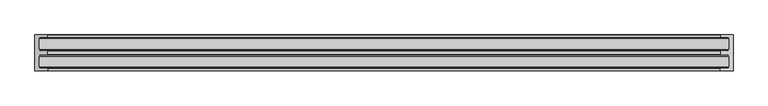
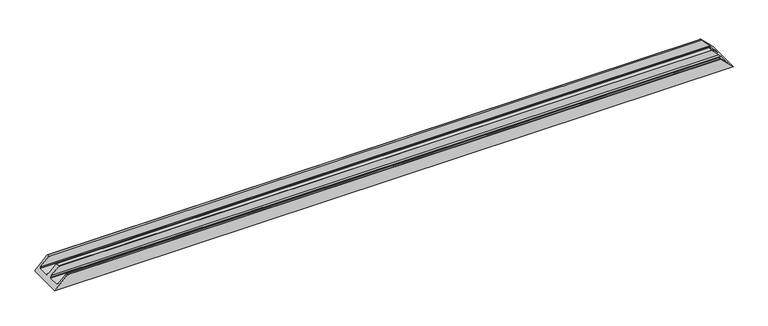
"""IFC4 building model written with IfcOpenShell, lengths in millimetres: proxy geometry, Weiku - Montante - Caixilho duplo 02.3.02.409 : Weiku - Montante - Caixilho duplo 02.3.02.409."""

import ifcopenshell
import ifcopenshell.guid

model = None  # the IFC model being written
_history = None  # IfcOwnerHistory: only IFC2X3 demands one
_inside = {}  # id of a spatial element -> (the spatial element, [elements in it])
_under = {}  # id of a project, library or spatial element -> (it, [spatial elements below it])
_declared = {}  # id of a project -> (the project, [libraries it declares])
_typed = {}  # id of a type object -> (the type object, [elements of that type])
_made_of = {}  # id of a material, layer set ... -> (it, [elements and type objects made of it])


def new_model(schema):
    """Start an empty IFC model of exactly this schema.

    Asked for "IFC4X3", IfcOpenShell would pick the latest addendum, in which some entities
    have other attributes; the version numbers below select the first issue.
    IFC2X3 requires an IfcOwnerHistory on every rooted entity: one is made here for all.
    """
    global model, _history
    if schema == "IFC4X3":
        model = ifcopenshell.file(schema_version=(4, 3, 0, 0))
    else:
        model = ifcopenshell.file(schema=schema)
    _inside.clear()
    _under.clear()
    _declared.clear()
    _typed.clear()
    _made_of.clear()
    _history = None
    if model.schema == "IFC2X3":
        org = make("IfcOrganization", Name="unknown")
        user = make(
            "IfcPersonAndOrganization",
            ThePerson=make("IfcPerson", FamilyName="unknown"),
            TheOrganization=org,
        )
        app = make(
            "IfcApplication",
            ApplicationDeveloper=org,
            Version="unknown",
            ApplicationFullName="unknown",
            ApplicationIdentifier="unknown",
        )
        _history = make(
            "IfcOwnerHistory",
            OwningUser=user,
            OwningApplication=app,
            ChangeAction="ADDED",
            CreationDate=0,
        )
    return model


def make(cls, **values):
    """One entity of the class cls with the attributes given. An attribute that is None is left unset."""
    return model.create_entity(
        cls, **{name: value for name, value in values.items() if value is not None}
    )


def rooted(cls, **values):
    """An entity with a GlobalId (a new one), such as an element, a storey or a relation."""
    return make(cls, GlobalId=ifcopenshell.guid.new(), OwnerHistory=_history, **values)


def si_unit(unit_type, name, prefix=None):
    """IfcSIUnit, for example si_unit("LENGTHUNIT", "METRE", prefix="MILLI")."""
    return make("IfcSIUnit", UnitType=unit_type, Prefix=prefix, Name=name)


def assignment(units):
    """IfcUnitAssignment: the units of a project."""
    return None if units is None else make("IfcUnitAssignment", Units=units)


def point(xyz):
    """IfcCartesianPoint."""
    return None if xyz is None else make("IfcCartesianPoint", Coordinates=xyz)


def direction(xyz):
    """IfcDirection."""
    return None if xyz is None else make("IfcDirection", DirectionRatios=xyz)


def frame(location, z_axis=None, x_axis=None):
    """IfcAxis2Placement3D, a coordinate frame: its origin and axes. An axis left out is left unset."""
    return make(
        "IfcAxis2Placement3D",
        Location=point(location),
        Axis=direction(z_axis),
        RefDirection=direction(x_axis),
    )


def origin():
    """The frame at (0, 0, 0) with its axes left unset."""
    return frame((0.0, 0.0, 0.0))


def place(relative_to, where):
    """IfcLocalPlacement: puts the frame where relative to a parent placement (None: the world)."""
    return make(
        "IfcLocalPlacement", PlacementRelTo=relative_to, RelativePlacement=where
    )


def context(
    kind, dimensions, precision=None, world=None, true_north=None, identifier=None
):
    """IfcGeometricRepresentationContext, for example the 3D "Model" context."""
    return make(
        "IfcGeometricRepresentationContext",
        ContextIdentifier=identifier,
        ContextType=kind,
        CoordinateSpaceDimension=dimensions,
        Precision=precision,
        WorldCoordinateSystem=world,
        TrueNorth=true_north,
    )


def project(units=None, contexts=None):
    """IfcProject with its units and contexts."""
    return rooted(
        "IfcProject",
        Name="project",
        RepresentationContexts=contexts,
        UnitsInContext=assignment(units),
    )


def spatial(cls, under=None, at=None, **own):
    """A site, building, storey or space (cls), placed at a placement, below another one or the project."""
    s = rooted(cls, ObjectPlacement=at, **own)
    if under is not None:
        _under.setdefault(under.id(), (under, []))[1].append(s)
    return s


def ellipse_curve(where, semi_axis1, semi_axis2):
    """IfcEllipse in the frame where."""
    return make(
        "IfcEllipse", Position=where, SemiAxis1=semi_axis1, SemiAxis2=semi_axis2
    )


def shape(context_of_items, identifier, shape_type, items):
    """IfcShapeRepresentation: the items that make up one representation, for example the "Body"."""
    return make(
        "IfcShapeRepresentation",
        ContextOfItems=context_of_items,
        RepresentationIdentifier=identifier,
        RepresentationType=shape_type,
        Items=items,
    )


def source(mapping_origin, context_of_items, identifier, shape_type, items):
    """IfcRepresentationMap: a shape defined once, which mapped items show again and again."""
    return make(
        "IfcRepresentationMap",
        MappingOrigin=mapping_origin,
        MappedRepresentation=shape(context_of_items, identifier, shape_type, items),
    )


def transform(
    local_origin,
    x_axis=None,
    y_axis=None,
    z_axis=None,
    scale=None,
    scale2=None,
    scale3=None,
    uniform=True,
):
    """IfcCartesianTransformationOperator3D, or its non-uniform kind. x_axis, y_axis, z_axis: its Axis1, 2, 3."""
    if uniform:
        return make(
            "IfcCartesianTransformationOperator3D",
            Axis1=direction(x_axis),
            Axis2=direction(y_axis),
            LocalOrigin=point(local_origin),
            Scale=scale,
            Axis3=direction(z_axis),
        )
    return make(
        "IfcCartesianTransformationOperator3DnonUniform",
        Axis1=direction(x_axis),
        Axis2=direction(y_axis),
        LocalOrigin=point(local_origin),
        Scale=scale,
        Axis3=direction(z_axis),
        Scale2=scale2,
        Scale3=scale3,
    )


def mapped(mapping_source, mapping_target):
    """IfcMappedItem: shows the shape of a source again, moved by a transform."""
    return make(
        "IfcMappedItem", MappingSource=mapping_source, MappingTarget=mapping_target
    )


def made_of(thing, what):
    """Note that an element or type object is made of a material, layer set ...; save() writes the relation."""
    if what is not None:
        _made_of.setdefault(what.id(), (what, []))[1].append(thing)
    return thing


def element(
    cls,
    number,
    at=None,
    inside=None,
    cuts=None,
    type_object=None,
    material=None,
    context=None,
    identifier="Body",
    shape_type=None,
    held_by="IfcProductDefinitionShape",
    body=None,
    shapes=None,
    **own,
):
    """One element of the class cls, such as IfcWall. Its Tag is "e" and its number.

    at: its placement. inside: the storey or other place that contains it. cuts: it is an
    opening in that element (IfcRelVoidsElement). A single representation is given by context,
    identifier, shape_type and body (its items); several are given by shapes. held_by: the class
    of the entity that holds the representations. save() writes the other relations.
    """
    e = rooted(cls, Tag="e%d" % number, ObjectPlacement=at, **own)
    if body is not None:
        shapes = [shape(context, identifier, shape_type, body)]
    if shapes is not None:
        e.Representation = make(held_by, Representations=shapes)
    if inside is not None:
        _inside.setdefault(inside.id(), (inside, []))[1].append(e)
    if cuts is not None:
        rooted(
            "IfcRelVoidsElement", RelatingBuildingElement=cuts, RelatedOpeningElement=e
        )
    if type_object is not None:
        _typed.setdefault(type_object.id(), (type_object, []))[1].append(e)
    return made_of(e, material)


def aggregate(whole, parts):
    """IfcRelAggregates: a whole, such as a stair, and the parts it consists of."""
    return rooted("IfcRelAggregates", RelatingObject=whole, RelatedObjects=parts)


def save(model, path):
    """Write the relations noted so far, then the file.

    IfcRelAggregates (storeys below a building ...), IfcRelContainedInSpatialStructure (elements
    in a storey), IfcRelDefinesByType, IfcRelAssociatesMaterial and IfcRelDeclares: one each for
    every whole, place, type object, material and project.
    """
    for whole, parts in _under.values():
        aggregate(whole, parts)
    for where, things in _inside.values():
        rooted(
            "IfcRelContainedInSpatialStructure",
            RelatedElements=things,
            RelatingStructure=where,
        )
    for kind, things in _typed.values():
        rooted("IfcRelDefinesByType", RelatedObjects=things, RelatingType=kind)
    for what, things in _made_of.values():
        rooted("IfcRelAssociatesMaterial", RelatedObjects=things, RelatingMaterial=what)
    for by, libraries in _declared.values():
        rooted("IfcRelDeclares", RelatingContext=by, RelatedDefinitions=libraries)
    model.write(path)


def plane_surface(at):
    """IfcPlane: the flat surface through the origin of the frame at, square to its z axis."""
    return make("IfcPlane", Position=at)


def cylinder_surface(at, radius):
    """IfcCylindricalSurface: all points at the distance radius from the z axis of the frame at."""
    return make("IfcCylindricalSurface", Position=at, Radius=radius)


def advanced_brep(points, edges, surfaces, faces):
    """IfcAdvancedBrep: a solid bounded by faces that lie on surfaces and meet in shared edges.

    An edge is (start, end): straight between two places in points (the first is 0);
    or (start, end, curve); or (start, end, curve, False) where it runs against its curve.
    A face is (place in surfaces, loops), or (place, loops, False) where it looks against
    its surface's normal. A loop lists edges by number (the first is 1), with a minus sign
    where the edge is run from its end to its start. The first loop is the outer one.
    """
    corners = [point(p) for p in points]
    vertices = [make("IfcVertexPoint", VertexGeometry=c) for c in corners]
    made = []
    for start, end, *more in edges:
        made.append(
            make(
                "IfcEdgeCurve",
                EdgeStart=vertices[start],
                EdgeEnd=vertices[end],
                EdgeGeometry=more[0] if more else make("IfcPolyline", Points=[corners[start], corners[end]]),
                SameSense=more[1] if len(more) > 1 else True,
            )
        )
    hull = []
    for where, loops, *sense in faces:
        bounds = []
        for j, loop in enumerate(loops):
            ring = [make("IfcOrientedEdge", EdgeElement=made[abs(k) - 1], Orientation=k > 0) for k in loop]
            bounds.append(
                make(
                    "IfcFaceOuterBound" if j == 0 else "IfcFaceBound",
                    Bound=make("IfcEdgeLoop", EdgeList=ring),
                    Orientation=True,
                )
            )
        hull.append(make("IfcAdvancedFace", Bounds=bounds, FaceSurface=surfaces[where], SameSense=sense[0] if sense else True))
    return make("IfcAdvancedBrep", Outer=make("IfcClosedShell", CfsFaces=hull))


def generic_models_33c4479b(model_context):
    return source(origin(), model_context, "Body", "AdvancedBrep", [
        advanced_brep(
        [(-1508.0, -9.8, 18.2), (1508.0, -9.8, 18.2), (1470.3, -9.8, 55.9), (-1470.3, -9.8, 55.9), (-1510.5000079, -63.85, 15.6999921), (1510.5000079, -63.85, 15.6999921), (1510.5000079, -15.05, 15.6999921), (-1510.5000079, -15.05, 15.6999921), (-1470.3000055, -69.1, 55.8999945), (1470.3000055, -69.1, 55.8999945), (1502.3700642, -69.1, 23.8299358), (-1502.3700642, -69.1, 23.8299358), (-1469.8000055, -86.65, 56.3999945), (1469.8000055, -86.65, 56.3999945), (1469.8000055, -69.6, 56.3999945), (-1469.8000055, -69.6, 56.3999945), (-1502.4236827, -87.15, 23.7763173), (1502.4236827, -87.15, 23.7763173), (1470.3000055, -87.15, 55.8999945), (-1470.3000055, -87.15, 55.8999945), (-1526.2, -156.2000166, 0.0), (-1526.2, 0.0, 0.0), (1526.2, 0.0, 0.0), (1526.2, -156.2000166, 0.0), (-1470.3, 0.0, 55.9), (1470.3, 0.0, 55.9), (-1469.8, -9.3, 56.4), (1469.8, -9.3, 56.4), (1469.8, -0.5, 56.4), (-1469.8, -0.5, 56.4), (-1470.3, -156.2000166, 55.9), (-1469.8, -155.7000166, 56.4), (-1469.8, -146.9000166, 56.4), (-1470.3, -146.4000166, 55.9), (-1508.0, -146.4000166, 18.2), (-1508.0, -141.1500166, 18.2), (-1510.5000079, -141.1500166, 15.6999921), (-1510.5000079, -92.3500166, 15.6999921), (-1508.0000178, -92.3500166, 18.1999822), (-1508.0, -63.85, 18.2), (-1508.0, -15.05, 18.2), (1508.0, -15.05, 18.2), (1508.0, -63.85, 18.2), (1508.0000178, -92.3500166, 18.1999822), (1510.5000079, -92.3500166, 15.6999921), (1510.5000079, -141.1500166, 15.6999921), (1508.0, -141.1500166, 18.2), (1508.0, -146.4000166, 18.2), (1470.3, -146.4000166, 55.9), (1469.8, -146.9000166, 56.4), (1469.8, -155.7000166, 56.4), (1470.3, -156.2000166, 55.9)],
        [
            (0, 1),
            (1, 2),
            (2, 3),
            (3, 0),
            (4, 5),
            (5, 6),
            (6, 7),
            (7, 4),
            (8, 9),
            (9, 10),
            (10, 11),
            (11, 8),
            (12, 13),
            (13, 14),
            (14, 15),
            (15, 12),
            (16, 17),
            (17, 18),
            (18, 19),
            (19, 16),
            (20, 21),
            (21, 22),
            (22, 23),
            (23, 20),
            (21, 24),
            (24, 25),
            (25, 22),
            (26, 27),
            (27, 28),
            (28, 29),
            (29, 26),
            (3, 26, ellipse_curve(frame((-1470.3, -9.3, 55.9), z_axis=(-0.7071067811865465, 0.0, 0.7071067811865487), x_axis=(-0.7071067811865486, 0.0, -0.7071067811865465)), 0.7071068, 0.5)),
            (29, 24, ellipse_curve(frame((-1470.3, -0.5, 55.9), z_axis=(-0.7071067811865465, 0.0, 0.7071067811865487), x_axis=(-0.7071067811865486, 0.0, -0.7071067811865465)), 0.7071068, 0.5)),
            (20, 30),
            (30, 31, ellipse_curve(frame((-1470.3, -155.7000166, 55.9), z_axis=(-0.7071067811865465, 0.0, 0.7071067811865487), x_axis=(-0.7071067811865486, 0.0, -0.7071067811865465)), 0.7071068, 0.5)),
            (31, 32),
            (32, 33, ellipse_curve(frame((-1470.3, -146.9000166, 55.9), z_axis=(-0.7071067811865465, 0.0, 0.7071067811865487), x_axis=(-0.7071067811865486, 0.0, -0.7071067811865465)), 0.7071068, 0.5)),
            (33, 34),
            (34, 35),
            (35, 36),
            (36, 37),
            (37, 38),
            (38, 16),
            (19, 12, ellipse_curve(frame((-1470.3000055, -86.65, 55.8999945), z_axis=(-0.7071067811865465, 0.0, 0.7071067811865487), x_axis=(-0.7071067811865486, 0.0, -0.7071067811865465)), 0.7071068, 0.5)),
            (15, 8, ellipse_curve(frame((-1470.3000055, -69.6, 55.8999945), z_axis=(-0.7071067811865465, 0.0, 0.7071067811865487), x_axis=(-0.7071067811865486, 0.0, -0.7071067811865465)), 0.7071068, 0.5)),
            (11, 39),
            (39, 4),
            (7, 40),
            (40, 0),
            (1, 41),
            (41, 6),
            (5, 42),
            (42, 10),
            (9, 14, ellipse_curve(frame((1470.3000055, -69.6, 55.8999945), z_axis=(0.7071067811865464, 0.0, 0.7071067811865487), x_axis=(-0.7071067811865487, 0.0, 0.7071067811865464)), 0.7071068, 0.5)),
            (13, 18, ellipse_curve(frame((1470.3000055, -86.65, 55.8999945), z_axis=(0.7071067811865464, 0.0, 0.7071067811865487), x_axis=(-0.7071067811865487, 0.0, 0.7071067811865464)), 0.7071068, 0.5)),
            (17, 43),
            (43, 44),
            (44, 45),
            (45, 46),
            (46, 47),
            (47, 48),
            (48, 49, ellipse_curve(frame((1470.3, -146.9000166, 55.9), z_axis=(0.7071067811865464, 0.0, 0.7071067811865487), x_axis=(-0.7071067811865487, 0.0, 0.7071067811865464)), 0.7071068, 0.5)),
            (49, 50),
            (50, 51, ellipse_curve(frame((1470.3, -155.7000166, 55.9), z_axis=(0.7071067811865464, 0.0, 0.7071067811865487), x_axis=(-0.7071067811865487, 0.0, 0.7071067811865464)), 0.7071068, 0.5)),
            (51, 23),
            (25, 28, ellipse_curve(frame((1470.3, -0.5, 55.9), z_axis=(0.7071067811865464, 0.0, 0.7071067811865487), x_axis=(-0.7071067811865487, 0.0, 0.7071067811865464)), 0.7071068, 0.5)),
            (27, 2, ellipse_curve(frame((1470.3, -9.3, 55.9), z_axis=(0.7071067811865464, 0.0, 0.7071067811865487), x_axis=(-0.7071067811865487, 0.0, 0.7071067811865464)), 0.7071068, 0.5)),
            (40, 41),
            (39, 42),
            (38, 43),
            (37, 44),
            (36, 45),
            (35, 46),
            (34, 47),
            (33, 48),
            (31, 50),
            (49, 32),
            (30, 51),
        ],
        [
            plane_surface(frame((-1526.2, -9.8, 55.9), z_axis=(0.0, -1.0, 0.0), x_axis=(1.0, 0.0, 0.0))),
            plane_surface(frame((-1526.2, -15.05, 15.6999921), z_axis=(0.0, 0.0, 1.0), x_axis=(1.0, 0.0, 0.0))),
            plane_surface(frame((-1526.2, -69.1, 23.8299358), z_axis=(0.0, 1.0, 0.0), x_axis=(1.0, 0.0, 0.0))),
            plane_surface(frame((-1526.2, -69.6, 56.3999945), z_axis=(0.0, 0.0, 1.0), x_axis=(1.0, 0.0, 0.0))),
            plane_surface(frame((-1526.2, -87.15, 55.8999945), z_axis=(0.0, -1.0, 0.0), x_axis=(1.0, 0.0, 0.0))),
            plane_surface(frame((-1526.2, -156.2000166, 0.0), z_axis=(0.0, 0.0, -1.0), x_axis=(1.0, 0.0, 0.0))),
            plane_surface(frame((-1526.2, 0.0, 0.0), z_axis=(0.0, 1.0, 0.0), x_axis=(1.0, 0.0, 0.0))),
            plane_surface(frame((-1526.2, -0.5, 56.4), z_axis=(0.0, 0.0, 1.0), x_axis=(1.0, 0.0, 0.0))),
            plane_surface(frame((-1526.2, 0.0, 0.0), z_axis=(-0.7071067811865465, 0.0, 0.7071067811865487), x_axis=(0.0, -1.0, 0.0))),
            plane_surface(frame((1466.2, 0.0, 60.0), z_axis=(0.7071067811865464, 0.0, 0.7071067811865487), x_axis=(0.0, -1.0, 0.0))),
            plane_surface(frame((-1526.2, -9.8, 18.2), z_axis=(0.0, 0.0, 1.0), x_axis=(1.0, 0.0, 0.0))),
            plane_surface(frame((-1526.2, -15.05, 18.2), z_axis=(0.0, -1.0, 0.0), x_axis=(1.0, 0.0, 0.0))),
            plane_surface(frame((-1526.2, -63.85, 15.6999921), z_axis=(0.0, 1.0, 0.0), x_axis=(1.0, 0.0, 0.0))),
            plane_surface(frame((-1526.2, -63.85, 18.2), z_axis=(0.0, 0.7313537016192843, 0.6819983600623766), x_axis=(1.0, 0.0, 0.0))),
            cylinder_surface(frame((-1526.2, -86.65, 55.8999945), z_axis=(-1.0, 0.0, 0.0), x_axis=(0.0, -1.0, 0.0)), 0.5),
            cylinder_surface(frame((-1526.2, -0.5, 55.9), z_axis=(-1.0, 0.0, 0.0), x_axis=(0.0, -1.0, 0.0)), 0.5),
            plane_surface(frame((-1526.2, -87.15, 23.7763173), z_axis=(0.0, -0.7313537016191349, 0.6819983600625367), x_axis=(1.0, 0.0, 0.0))),
            plane_surface(frame((-1526.2, -92.3500166, 18.1999822), z_axis=(0.0, -1.0, 0.0), x_axis=(1.0, 0.0, 0.0))),
            plane_surface(frame((-1526.2, -92.3500166, 15.6999921), z_axis=(0.0, 0.0, 1.0), x_axis=(1.0, 0.0, 0.0))),
            plane_surface(frame((-1526.2, -141.1500166, 15.6999921), z_axis=(0.0, 1.0, 0.0), x_axis=(1.0, 0.0, 0.0))),
            plane_surface(frame((-1526.2, -141.1500166, 18.2), z_axis=(0.0, 0.0, 1.0), x_axis=(1.0, 0.0, 0.0))),
            plane_surface(frame((-1526.2, -146.4000166, 18.2), z_axis=(0.0, 1.0, 0.0), x_axis=(1.0, 0.0, 0.0))),
            plane_surface(frame((-1526.2, -146.9000166, 56.4), z_axis=(0.0, 0.0, 1.0), x_axis=(1.0, 0.0, 0.0))),
            cylinder_surface(frame((-1526.2, -155.7000166, 55.9), z_axis=(-1.0, 0.0, 0.0), x_axis=(0.0, 1.0, 0.0)), 0.5),
            plane_surface(frame((-1526.2, -156.2000166, 55.9), z_axis=(0.0, -1.0, 0.0), x_axis=(1.0, 0.0, 0.0))),
            cylinder_surface(frame((-1526.2, -9.3, 55.9), z_axis=(-1.0, 0.0, 0.0), x_axis=(0.0, -1.0, 0.0)), 0.5),
            cylinder_surface(frame((-1526.2, -69.6, 55.8999945), z_axis=(-1.0, 0.0, 0.0), x_axis=(0.0, -1.0, 0.0)), 0.5),
            cylinder_surface(frame((-1526.2, -146.9000166, 55.9), z_axis=(-1.0, 0.0, 0.0), x_axis=(0.0, -1.0, 0.0)), 0.5),
        ],
        [
            (0, [[1, 2, 3, 4]]),
            (1, [[5, 6, 7, 8]]),
            (2, [[9, 10, 11, 12]]),
            (3, [[13, 14, 15, 16]]),
            (4, [[17, 18, 19, 20]]),
            (5, [[21, 22, 23, 24]]),
            (6, [[25, 26, 27, -22]]),
            (7, [[28, 29, 30, 31]]),
            (8, [[32, -31, 33, -25, -21, 34, 35, 36, 37, 38, 39, 40, 41, 42, 43, -20, 44, -16, 45, -12, 46, 47, -8, 48, 49, -4]]),
            (9, [[50, 51, -6, 52, 53, -10, 54, -14, 55, -18, 56, 57, 58, 59, 60, 61, 62, 63, 64, 65, -23, -27, 66, -29, 67, -2]]),
            (10, [[68, -50, -1, -49]]),
            (11, [[-7, -51, -68, -48]]),
            (12, [[69, -52, -5, -47]]),
            (13, [[-11, -53, -69, -46]]),
            (14, [[-19, -55, -13, -44]]),
            (15, [[-30, -66, -26, -33]]),
            (16, [[70, -56, -17, -43]]),
            (17, [[71, -57, -70, -42]]),
            (18, [[72, -58, -71, -41]]),
            (19, [[73, -59, -72, -40]]),
            (20, [[74, -60, -73, -39]]),
            (21, [[75, -61, -74, -38]]),
            (22, [[76, -63, 77, -36]]),
            (23, [[78, -64, -76, -35]]),
            (24, [[-65, -78, -34, -24]]),
            (25, [[-3, -67, -28, -32]]),
            (26, [[-15, -54, -9, -45]]),
            (27, [[-77, -62, -75, -37]]),
        ],
    ),
    ])


if __name__ == "__main__":
    model = new_model("IFC4")
    model_context = context("Model", 3, world=origin())
    ifc_project = project(units=[si_unit("LENGTHUNIT", "METRE", prefix="MILLI")], contexts=[model_context])
    site = spatial("IfcSite", under=ifc_project)
    building = spatial("IfcBuilding", under=site)
    placement = place(None, origin())
    generic_models_shape = generic_models_33c4479b(model_context)
    element("IfcBuildingElementProxy", 1, Name="Weiku - Montante - Caixilho duplo 02.3.02.409 : Weiku - Montante - Caixilho duplo 02.3.02.409", ObjectType="Weiku - Montante - Caixilho duplo 02.3.02.409 : Weiku - Montante - Caixilho duplo 02.3.02.409", at=placement, inside=building, context=model_context, shape_type="MappedRepresentation", body=[
        mapped(generic_models_shape, transform((0.0, 0.0, 0.0), x_axis=(1.0, 0.0, 0.0), y_axis=(0.0, 1.0, 0.0), z_axis=(0.0, 0.0, 1.0))),
    ])
    save(model, "model.ifc")
